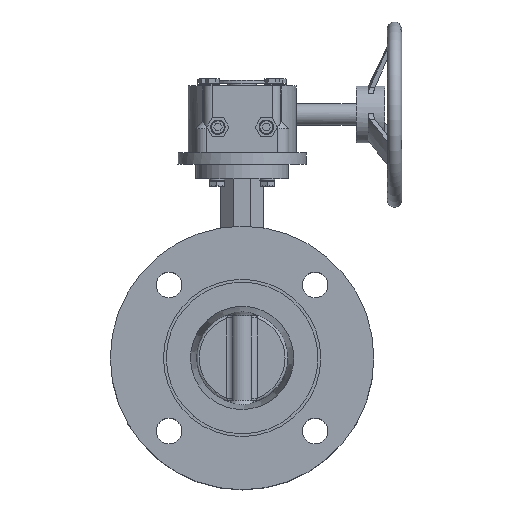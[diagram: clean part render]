
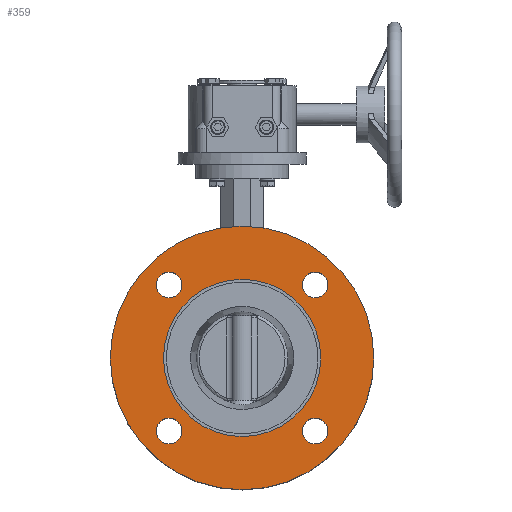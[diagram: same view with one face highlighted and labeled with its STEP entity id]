
A CAD part, top view. The second image highlights one B-rep face of the part: STEP entity #359.
In plain terms, the highlighted planar face has unit normal (0, 0, 1).
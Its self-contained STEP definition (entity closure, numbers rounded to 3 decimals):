
#359 = ADVANCED_FACE ( 'NONE', ( #9313, #21028, #18196, #15173, #9865, #9678 ), #32543, .F. ) ;
#750 = EDGE_LOOP ( 'NONE', ( #3028 ) ) ;
#1169 = CIRCLE ( 'NONE', #22286, 9. ) ;
#1391 = EDGE_CURVE ( 'NONE', #7738, #7738, #36971, .T. ) ;
#1931 = CARTESIAN_POINT ( 'NONE',  ( 51.265, 51.265, 54. ) ) ;
#2066 = CARTESIAN_POINT ( 'NONE',  ( -60.265, -51.265, 54. ) ) ;
#2343 = EDGE_LOOP ( 'NONE', ( #14122 ) ) ;
#2521 = ORIENTED_EDGE ( 'NONE', *, *, #23127, .T. ) ;
#3028 = ORIENTED_EDGE ( 'NONE', *, *, #7120, .T. ) ;
#3874 = VERTEX_POINT ( 'NONE', #26941 ) ;
#4695 = VERTEX_POINT ( 'NONE', #2066 ) ;
#7120 = EDGE_CURVE ( 'NONE', #4695, #4695, #1169, .T. ) ;
#7345 = ORIENTED_EDGE ( 'NONE', *, *, #18503, .T. ) ;
#7738 = VERTEX_POINT ( 'NONE', #28330 ) ;
#8205 = AXIS2_PLACEMENT_3D ( 'NONE', #25446, #19785, #25079 ) ;
#8436 = VERTEX_POINT ( 'NONE', #34160 ) ;
#8525 = DIRECTION ( 'NONE',  ( 1., 0., 0. ) ) ;
#9313 = FACE_BOUND ( 'NONE', #34164, .T. ) ;
#9389 = AXIS2_PLACEMENT_3D ( 'NONE', #20611, #29480, #8525 ) ;
#9678 = FACE_BOUND ( 'NONE', #30660, .T. ) ;
#9865 = FACE_BOUND ( 'NONE', #13131, .T. ) ;
#10215 = DIRECTION ( 'NONE',  ( 0., 0., -1. ) ) ;
#10657 = ORIENTED_EDGE ( 'NONE', *, *, #1391, .T. ) ;
#10795 = CARTESIAN_POINT ( 'NONE',  ( 51.265, -51.265, 54. ) ) ;
#11100 = VERTEX_POINT ( 'NONE', #17130 ) ;
#12040 = CARTESIAN_POINT ( 'NONE',  ( -51.265, 51.265, 54. ) ) ;
#12868 = CIRCLE ( 'NONE', #30973, 9. ) ;
#13131 = EDGE_LOOP ( 'NONE', ( #10657 ) ) ;
#13413 = AXIS2_PLACEMENT_3D ( 'NONE', #10795, #10215, #24584 ) ;
#13430 = DIRECTION ( 'NONE',  ( 0., 0., -1. ) ) ;
#14122 = ORIENTED_EDGE ( 'NONE', *, *, #20943, .T. ) ;
#14306 = CARTESIAN_POINT ( 'NONE',  ( -60.265, 51.265, 54. ) ) ;
#15173 = FACE_BOUND ( 'NONE', #750, .T. ) ;
#17130 = CARTESIAN_POINT ( 'NONE',  ( 92.5, 0., 54. ) ) ;
#18196 = FACE_BOUND ( 'NONE', #2343, .T. ) ;
#18503 = EDGE_CURVE ( 'NONE', #11100, #11100, #35355, .T. ) ;
#19785 = DIRECTION ( 'NONE',  ( 0., 0., 1. ) ) ;
#20373 = DIRECTION ( 'NONE',  ( 0., 0., -1. ) ) ;
#20611 = CARTESIAN_POINT ( 'NONE',  ( 0., 0., 54. ) ) ;
#20943 = EDGE_CURVE ( 'NONE', #34896, #34896, #34460, .T. ) ;
#21028 = FACE_OUTER_BOUND ( 'NONE', #25037, .T. ) ;
#22076 = CIRCLE ( 'NONE', #9389, 55.2 ) ;
#22286 = AXIS2_PLACEMENT_3D ( 'NONE', #24374, #24764, #25155 ) ;
#23127 = EDGE_CURVE ( 'NONE', #8436, #8436, #12868, .T. ) ;
#24374 = CARTESIAN_POINT ( 'NONE',  ( -51.265, -51.265, 54. ) ) ;
#24584 = DIRECTION ( 'NONE',  ( -1., 0., 0. ) ) ;
#24764 = DIRECTION ( 'NONE',  ( 0., 0., -1. ) ) ;
#25037 = EDGE_LOOP ( 'NONE', ( #7345 ) ) ;
#25079 = DIRECTION ( 'NONE',  ( 1., 0., 0. ) ) ;
#25155 = DIRECTION ( 'NONE',  ( -1., 0., 0. ) ) ;
#25446 = CARTESIAN_POINT ( 'NONE',  ( 0., 0., 54. ) ) ;
#26941 = CARTESIAN_POINT ( 'NONE',  ( 55.2, 0., 54. ) ) ;
#27809 = DIRECTION ( 'NONE',  ( 0., 0., -1. ) ) ;
#28330 = CARTESIAN_POINT ( 'NONE',  ( 42.265, -51.265, 54. ) ) ;
#29029 = AXIS2_PLACEMENT_3D ( 'NONE', #33115, #27809, #36152 ) ;
#29480 = DIRECTION ( 'NONE',  ( 0., 0., 1. ) ) ;
#29661 = ORIENTED_EDGE ( 'NONE', *, *, #35633, .F. ) ;
#30660 = EDGE_LOOP ( 'NONE', ( #2521 ) ) ;
#30973 = AXIS2_PLACEMENT_3D ( 'NONE', #1931, #13430, #36518 ) ;
#31884 = DIRECTION ( 'NONE',  ( -1., 0., 0. ) ) ;
#32543 = PLANE ( 'NONE',  #29029 ) ;
#33115 = CARTESIAN_POINT ( 'NONE',  ( -55.2, 0., 54. ) ) ;
#34160 = CARTESIAN_POINT ( 'NONE',  ( 42.265, 51.265, 54. ) ) ;
#34164 = EDGE_LOOP ( 'NONE', ( #29661 ) ) ;
#34460 = CIRCLE ( 'NONE', #35646, 9. ) ;
#34896 = VERTEX_POINT ( 'NONE', #14306 ) ;
#35355 = CIRCLE ( 'NONE', #8205, 92.5 ) ;
#35633 = EDGE_CURVE ( 'NONE', #3874, #3874, #22076, .T. ) ;
#35646 = AXIS2_PLACEMENT_3D ( 'NONE', #12040, #20373, #31884 ) ;
#36152 = DIRECTION ( 'NONE',  ( 1., 0., 0. ) ) ;
#36518 = DIRECTION ( 'NONE',  ( -1., 0., 0. ) ) ;
#36971 = CIRCLE ( 'NONE', #13413, 9. ) ;
